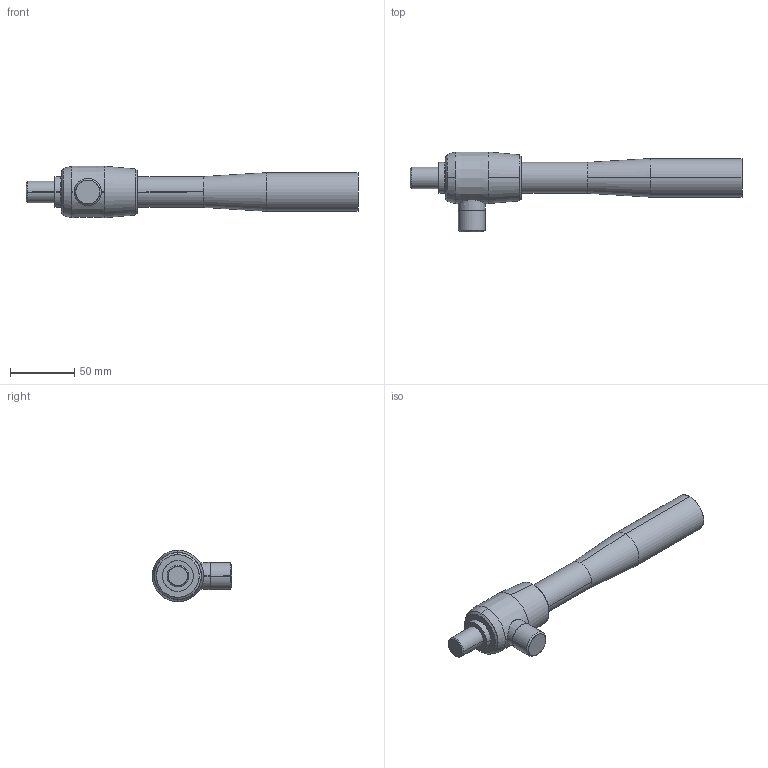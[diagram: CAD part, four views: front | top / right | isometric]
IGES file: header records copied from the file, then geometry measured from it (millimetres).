
Start section: SolidWorks IGES file using analytic representation for surfaces
Global section: file name: K:\SAPELEM\BUREAU D'ETUDES\Dossiers S\S100_S199\S170 Site internet\3D\2EJBl7432S00.IGS; native system: SolidWorks 2007; preprocessor: SolidWorks 2007; author: YAR; date: 080220.172925; units: millimetre
Bounding box: 258 x 62 x 40 mm (x, y, z)
Surface area: 29206.8 mm2 (no closed solid volume)
Topology: 0 solids, 0 shells, 41 faces, 884 edges, 884 vertices
Faces by surface type: revolution 32, bspline 9
